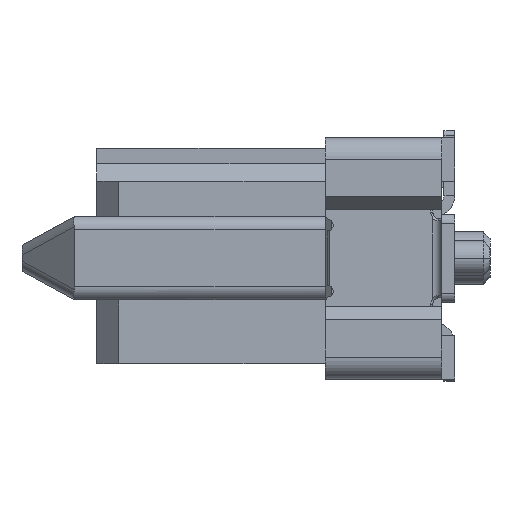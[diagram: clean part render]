
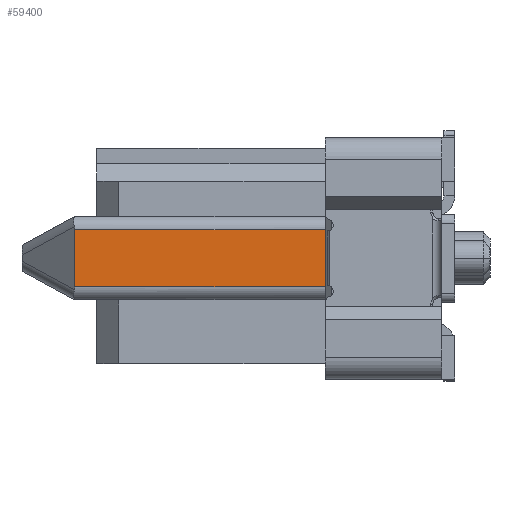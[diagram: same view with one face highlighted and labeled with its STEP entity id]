
A CAD part, left-side view. The second image highlights one B-rep face of the part: STEP entity #59400.
In plain terms, the highlighted planar face has unit normal (-1, 0, 0).
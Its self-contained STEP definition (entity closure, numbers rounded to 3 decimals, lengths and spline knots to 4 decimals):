
#980=DIRECTION('',(0.,0.,1.));
#981=VECTOR('',#980,1.3);
#982=CARTESIAN_POINT('',(2.51,3.75,-3.55));
#983=LINE('',#982,#981);
#1360=DIRECTION('',(0.,1.,0.));
#1361=VECTOR('',#1360,5.7);
#1362=CARTESIAN_POINT('',(2.51,3.75,-2.25));
#1363=LINE('',#1362,#1361);
#1391=DIRECTION('',(0.,0.,-1.));
#1392=VECTOR('',#1391,1.3);
#1393=CARTESIAN_POINT('',(2.51,9.45,-2.25));
#1394=LINE('',#1393,#1392);
#1404=DIRECTION('',(0.,-1.,0.));
#1405=VECTOR('',#1404,5.7);
#1406=CARTESIAN_POINT('',(2.51,9.45,-3.55));
#1407=LINE('',#1406,#1405);
#45669=CARTESIAN_POINT('',(2.51,3.75,-3.55));
#45670=VERTEX_POINT('',#45669);
#45671=CARTESIAN_POINT('',(2.51,3.75,-2.25));
#45672=VERTEX_POINT('',#45671);
#45808=CARTESIAN_POINT('',(2.51,9.45,-2.25));
#45809=VERTEX_POINT('',#45808);
#45819=CARTESIAN_POINT('',(2.51,9.45,-3.55));
#45820=VERTEX_POINT('',#45819);
#59388=CARTESIAN_POINT('',(2.51,0.8,-5.35));
#59389=DIRECTION('',(-1.,0.,0.));
#59390=DIRECTION('',(0.,0.,1.));
#59391=AXIS2_PLACEMENT_3D('',#59388,#59389,#59390);
#59392=PLANE('',#59391);
#59394=ORIENTED_EDGE('',*,*,#59393,.F.);
#59395=ORIENTED_EDGE('',*,*,#59378,.F.);
#59396=ORIENTED_EDGE('',*,*,#59330,.F.);
#59397=ORIENTED_EDGE('',*,*,#58816,.F.);
#59398=EDGE_LOOP('',(#59394,#59395,#59396,#59397));
#59399=FACE_OUTER_BOUND('',#59398,.F.);
#59400=ADVANCED_FACE('',(#59399),#59392,.T.);
#58816=EDGE_CURVE('',#45670,#45672,#983,.T.);
#59330=EDGE_CURVE('',#45672,#45809,#1363,.T.);
#59378=EDGE_CURVE('',#45809,#45820,#1394,.T.);
#59393=EDGE_CURVE('',#45820,#45670,#1407,.T.);
